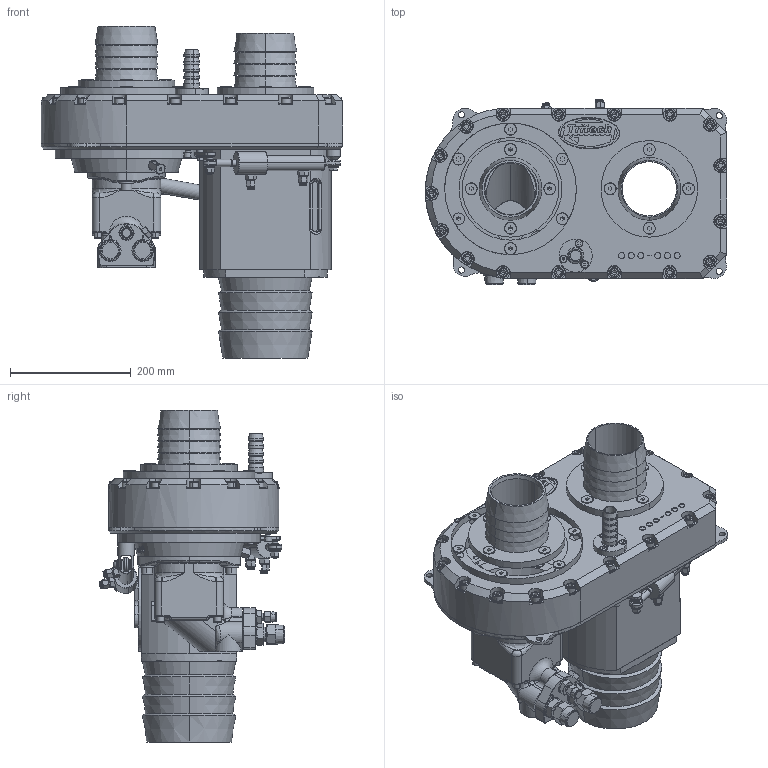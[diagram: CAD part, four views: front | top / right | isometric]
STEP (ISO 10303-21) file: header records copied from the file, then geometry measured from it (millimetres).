
FILE_DESCRIPTION (( 'STEP AP214' ), '1' );
FILE_NAME ('SZE-PA001 General Assembly.STEP', '2009-07-10T09:44:38', ( 'jm' ), ( 'Envision Design Limited' ), 'SwSTEP 2.0', 'SolidWorks 2009', '' );
FILE_SCHEMA (( 'AUTOMOTIVE_DESIGN' ));
Length unit declared in the file: millimetre
Products named in the file (1): SZE-PA001 General Assembly
Bounding box: 499.91 x 307.85 x 550 mm (x, y, z)
Surface area: 1151652.8 mm2 (no closed solid volume)
Topology: 0 solids, 198 shells, 1844 faces, 6405 edges, 4580 vertices
Faces by surface type: plane 808, cylinder 504, cone 241, torus 164, bspline 117, sphere 10
Entity records: 105528 total; most frequent: CARTESIAN_POINT 32288, DIRECTION 10809, ORIENTED_EDGE 9686, EDGE_CURVE 6324, VERTEX_POINT 4578, AXIS2_PLACEMENT_3D 3908, VECTOR 2993, LINE 2993
